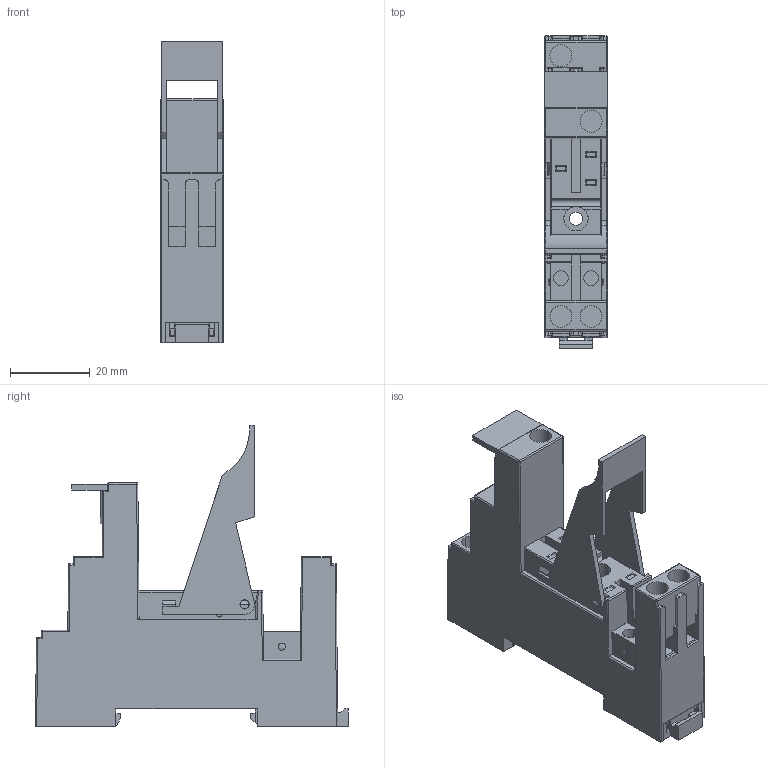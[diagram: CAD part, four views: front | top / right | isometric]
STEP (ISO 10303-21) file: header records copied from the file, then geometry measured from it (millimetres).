
FILE_DESCRIPTION (( 'STEP AP214' ), '1' );
FILE_NAME ('S18-M.STEP', '2024-04-15T09:17:51', ( '' ), ( '' ), 'SwSTEP 2.0', 'SolidWorks 2022', '' );
FILE_SCHEMA (( 'AUTOMOTIVE_DESIGN' ));
Length unit declared in the file: millimetre
Products named in the file (1): S18-M
Bounding box: 15.7 x 78.5 x 75.71 mm (x, y, z)
Volume: 38348.5 mm3; surface area: 17091.7 mm2
Topology: 1 solids, 17 shells, 598 faces, 1512 edges, 958 vertices
Faces by surface type: plane 434, cylinder 143, bspline 21
Entity records: 24233 total; most frequent: CARTESIAN_POINT 3677, ORIENTED_EDGE 3022, DIRECTION 2754, EDGE_CURVE 1511, LINE 1228, VECTOR 1228, VERTEX_POINT 958, AXIS2_PLACEMENT_3D 763
